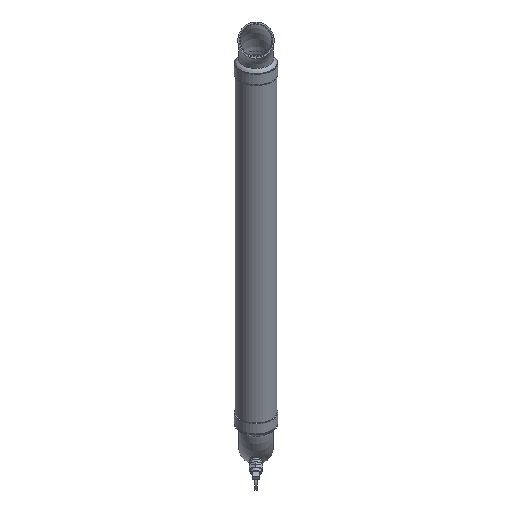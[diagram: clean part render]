
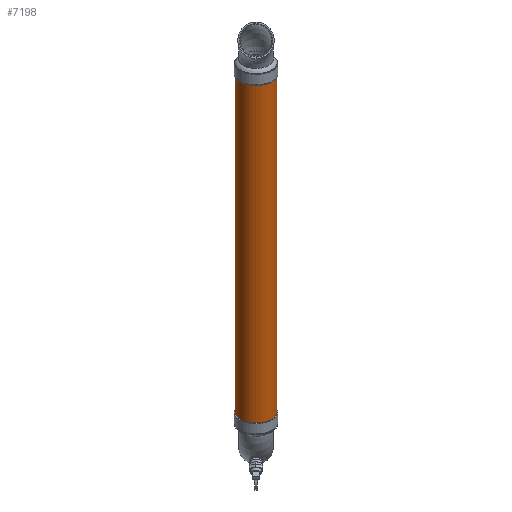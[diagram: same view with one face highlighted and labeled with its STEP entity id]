
A CAD part, front view. The second image highlights one B-rep face of the part: STEP entity #7198.
In plain terms, the highlighted cylindrical face has radius 25.756 mm (diameter 51.511 mm), a full revolution.
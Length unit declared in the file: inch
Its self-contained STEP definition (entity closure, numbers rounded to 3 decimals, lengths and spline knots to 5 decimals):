
#7171=CARTESIAN_POINT('',(0.0,0.0,0.0));
#7172=DIRECTION('',(0.0,0.0,1.0));
#7173=DIRECTION('',(-1.0,0.0,0.0));
#7174=AXIS2_PLACEMENT_3D('',#7171,#7172,#7173);
#7175=CYLINDRICAL_SURFACE('',#7174,1.014);
#7176=CARTESIAN_POINT('',(1.014,0.,20.185));
#7177=VERTEX_POINT('',#7176);
#7178=CARTESIAN_POINT('',(0.0,0.0,20.185));
#7179=DIRECTION('',(0.0,0.0,-1.0));
#7180=DIRECTION('',(-1.0,0.0,0.0));
#7181=AXIS2_PLACEMENT_3D('',#7178,#7179,#7180);
#7182=CIRCLE('',#7181,1.014);
#7183=EDGE_CURVE('',#7177,#7177,#7182,.T.);
#7184=ORIENTED_EDGE('',*,*,#7183,.T.);
#7185=EDGE_LOOP('',(#7184));
#7186=FACE_OUTER_BOUND('',#7185,.T.);
#7187=CARTESIAN_POINT('',(1.014,0.,0.0));
#7188=VERTEX_POINT('',#7187);
#7189=CARTESIAN_POINT('',(0.0,0.0,0.0));
#7190=DIRECTION('',(0.0,0.0,-1.0));
#7191=DIRECTION('',(-1.0,0.0,0.0));
#7192=AXIS2_PLACEMENT_3D('',#7189,#7190,#7191);
#7193=CIRCLE('',#7192,1.014);
#7194=EDGE_CURVE('',#7188,#7188,#7193,.T.);
#7195=ORIENTED_EDGE('',*,*,#7194,.F.);
#7196=EDGE_LOOP('',(#7195));
#7197=FACE_BOUND('',#7196,.T.);
#7198=ADVANCED_FACE('',(#7186,#7197),#7175,.T.);
